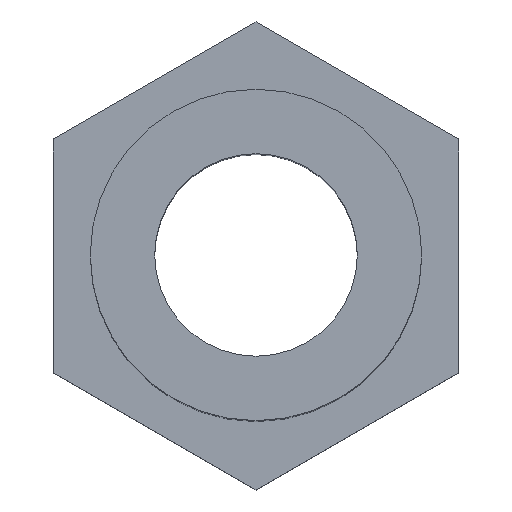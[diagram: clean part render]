
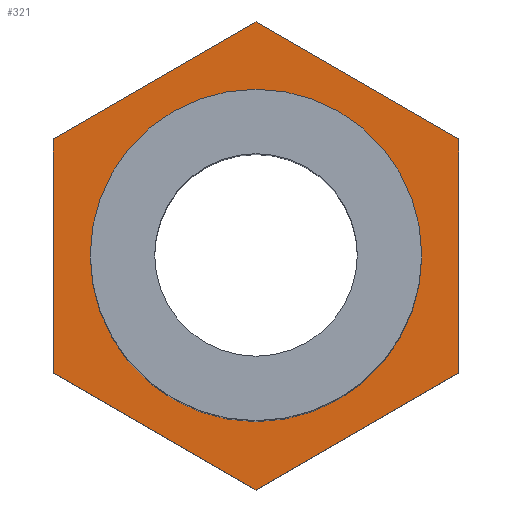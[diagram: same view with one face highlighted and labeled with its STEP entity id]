
A CAD part, top view. The second image highlights one B-rep face of the part: STEP entity #321.
In plain terms, the highlighted planar face has unit normal (0, 0, 1).
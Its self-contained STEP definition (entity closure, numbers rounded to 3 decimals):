
#1 = LINE ( 'NONE', #52, #75 ) ;
#2 = VERTEX_POINT ( 'NONE', #387 ) ;
#26 = LINE ( 'NONE', #314, #453 ) ;
#27 = DIRECTION ( 'NONE',  ( -0.866, 0.5, 0. ) ) ;
#38 = EDGE_CURVE ( 'NONE', #287, #556, #1, .T. ) ;
#45 = ORIENTED_EDGE ( 'NONE', *, *, #449, .T. ) ;
#52 = CARTESIAN_POINT ( 'NONE',  ( -5.5, 3.175, 15. ) ) ;
#65 = VECTOR ( 'NONE', #423, 1000. ) ;
#75 = VECTOR ( 'NONE', #728, 1000. ) ;
#83 = DIRECTION ( 'NONE',  ( -1., 0., 0. ) ) ;
#126 = VECTOR ( 'NONE', #686, 1000. ) ;
#149 = FACE_BOUND ( 'NONE', #153, .T. ) ;
#153 = EDGE_LOOP ( 'NONE', ( #45, #593 ) ) ;
#167 = ORIENTED_EDGE ( 'NONE', *, *, #610, .T. ) ;
#174 = DIRECTION ( 'NONE',  ( 1., 0., 0. ) ) ;
#178 = CARTESIAN_POINT ( 'NONE',  ( 5.5, -3.175, 15. ) ) ;
#206 = VECTOR ( 'NONE', #505, 1000. ) ;
#216 = VERTEX_POINT ( 'NONE', #637 ) ;
#230 = PLANE ( 'NONE',  #256 ) ;
#254 = DIRECTION ( 'NONE',  ( 0., 0., -1. ) ) ;
#256 = AXIS2_PLACEMENT_3D ( 'NONE', #285, #561, #174 ) ;
#261 = VERTEX_POINT ( 'NONE', #516 ) ;
#277 = AXIS2_PLACEMENT_3D ( 'NONE', #360, #419, #83 ) ;
#279 = CARTESIAN_POINT ( 'NONE',  ( 0., 6.351, 15. ) ) ;
#285 = CARTESIAN_POINT ( 'NONE',  ( 0., 0., 15. ) ) ;
#287 = VERTEX_POINT ( 'NONE', #567 ) ;
#288 = CARTESIAN_POINT ( 'NONE',  ( -5.5, -3.175, 15. ) ) ;
#304 = CARTESIAN_POINT ( 'NONE',  ( -5.5, -3.175, 15. ) ) ;
#305 = LINE ( 'NONE', #642, #65 ) ;
#314 = CARTESIAN_POINT ( 'NONE',  ( 5.5, 3.175, 15. ) ) ;
#319 = EDGE_CURVE ( 'NONE', #261, #632, #430, .T. ) ;
#320 = VERTEX_POINT ( 'NONE', #402 ) ;
#321 = ADVANCED_FACE ( 'NONE', ( #149, #552 ), #230, .T. ) ;
#325 = ORIENTED_EDGE ( 'NONE', *, *, #38, .T. ) ;
#335 = AXIS2_PLACEMENT_3D ( 'NONE', #589, #254, #650 ) ;
#340 = ORIENTED_EDGE ( 'NONE', *, *, #319, .T. ) ;
#360 = CARTESIAN_POINT ( 'NONE',  ( 0., 0., 15. ) ) ;
#361 = CIRCLE ( 'NONE', #335, 4.5 ) ;
#387 = CARTESIAN_POINT ( 'NONE',  ( -4.5, 0., 15. ) ) ;
#398 = ORIENTED_EDGE ( 'NONE', *, *, #483, .T. ) ;
#400 = EDGE_CURVE ( 'NONE', #555, #287, #658, .T. ) ;
#402 = CARTESIAN_POINT ( 'NONE',  ( 4.5, 0., 15. ) ) ;
#419 = DIRECTION ( 'NONE',  ( 0., 0., -1. ) ) ;
#423 = DIRECTION ( 'NONE',  ( 0.866, 0.5, 0. ) ) ;
#430 = LINE ( 'NONE', #178, #126 ) ;
#442 = EDGE_LOOP ( 'NONE', ( #398, #736, #325, #167, #679, #340 ) ) ;
#449 = EDGE_CURVE ( 'NONE', #2, #320, #361, .T. ) ;
#453 = VECTOR ( 'NONE', #27, 1000. ) ;
#483 = EDGE_CURVE ( 'NONE', #632, #555, #26, .T. ) ;
#505 = DIRECTION ( 'NONE',  ( -0.866, -0.5, 0. ) ) ;
#511 = DIRECTION ( 'NONE',  ( 0.866, -0.5, 0. ) ) ;
#516 = CARTESIAN_POINT ( 'NONE',  ( 5.5, -3.175, 15. ) ) ;
#552 = FACE_OUTER_BOUND ( 'NONE', #442, .T. ) ;
#554 = EDGE_CURVE ( 'NONE', #216, #261, #305, .T. ) ;
#555 = VERTEX_POINT ( 'NONE', #588 ) ;
#556 = VERTEX_POINT ( 'NONE', #304 ) ;
#561 = DIRECTION ( 'NONE',  ( 0., 0., 1. ) ) ;
#567 = CARTESIAN_POINT ( 'NONE',  ( -5.5, 3.175, 15. ) ) ;
#578 = EDGE_CURVE ( 'NONE', #320, #2, #648, .T. ) ;
#588 = CARTESIAN_POINT ( 'NONE',  ( 0., 6.351, 15. ) ) ;
#589 = CARTESIAN_POINT ( 'NONE',  ( 0., 0., 15. ) ) ;
#593 = ORIENTED_EDGE ( 'NONE', *, *, #578, .T. ) ;
#609 = VECTOR ( 'NONE', #511, 1000. ) ;
#610 = EDGE_CURVE ( 'NONE', #556, #216, #627, .T. ) ;
#627 = LINE ( 'NONE', #288, #609 ) ;
#632 = VERTEX_POINT ( 'NONE', #690 ) ;
#637 = CARTESIAN_POINT ( 'NONE',  ( 0., -6.351, 15. ) ) ;
#642 = CARTESIAN_POINT ( 'NONE',  ( 0., -6.351, 15. ) ) ;
#648 = CIRCLE ( 'NONE', #277, 4.5 ) ;
#650 = DIRECTION ( 'NONE',  ( -1., 0., 0. ) ) ;
#658 = LINE ( 'NONE', #279, #206 ) ;
#679 = ORIENTED_EDGE ( 'NONE', *, *, #554, .T. ) ;
#686 = DIRECTION ( 'NONE',  ( 0., 1., 0. ) ) ;
#690 = CARTESIAN_POINT ( 'NONE',  ( 5.5, 3.175, 15. ) ) ;
#728 = DIRECTION ( 'NONE',  ( 0., -1., 0. ) ) ;
#736 = ORIENTED_EDGE ( 'NONE', *, *, #400, .T. ) ;
